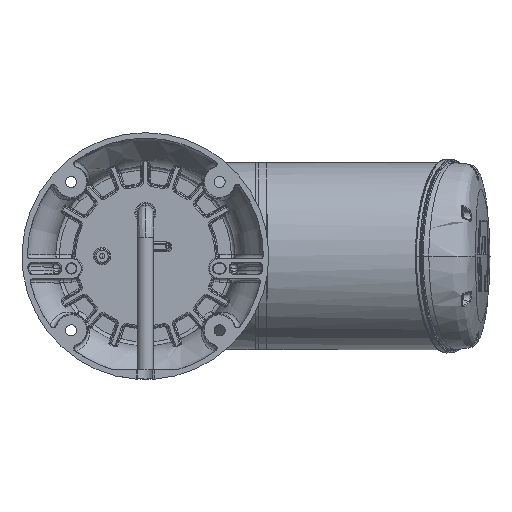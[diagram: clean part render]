
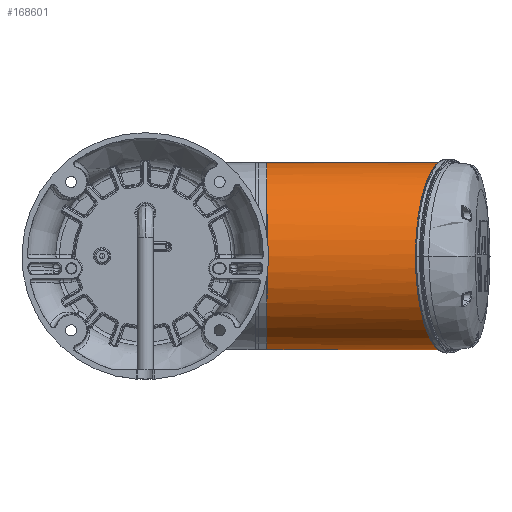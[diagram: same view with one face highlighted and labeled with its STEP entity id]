
A CAD part, front view. The second image highlights one B-rep face of the part: STEP entity #168601.
In plain terms, the highlighted cylindrical face has radius 76 mm (diameter 152 mm), a partial arc.
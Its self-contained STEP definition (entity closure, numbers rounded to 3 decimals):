
#10187 = CARTESIAN_POINT ( 'NONE',  ( 76., -1.202, -76. ) ) ;
#12317 = VERTEX_POINT ( 'NONE', #239527 ) ;
#14270 = ORIENTED_EDGE ( 'NONE', *, *, #202861, .T. ) ;
#22987 = CARTESIAN_POINT ( 'NONE',  ( -76., -1.202, -76. ) ) ;
#36625 = EDGE_LOOP ( 'NONE', ( #14270, #113511, #265377, #53951 ) ) ;
#45638 = DIRECTION ( 'NONE',  ( 0., 1., 0. ) ) ;
#46085 = DIRECTION ( 'NONE',  ( 0., 0., -1. ) ) ;
#52689 = DIRECTION ( 'NONE',  ( 0., 0., 1. ) ) ;
#53951 = ORIENTED_EDGE ( 'NONE', *, *, #251460, .T. ) ;
#56450 = CARTESIAN_POINT ( 'NONE',  ( 76., -153.202, 23.7 ) ) ;
#70385 = CYLINDRICAL_SURFACE ( 'NONE', #250080, 76. ) ;
#72718 = LINE ( 'NONE', #22987, #181467 ) ;
#79847 = DIRECTION ( 'NONE',  ( 0., 0., 1. ) ) ;
#102458 = EDGE_CURVE ( 'NONE', #155996, #250181, #193682, .T. ) ;
#104650 = VERTEX_POINT ( 'NONE', #108845 ) ;
#108845 = CARTESIAN_POINT ( 'NONE',  ( -76., -1.202, -76. ) ) ;
#109302 = DIRECTION ( 'NONE',  ( 0., 0., 1. ) ) ;
#109706 = EDGE_CURVE ( 'NONE', #104650, #155996, #188902, .T. ) ;
#113511 = ORIENTED_EDGE ( 'NONE', *, *, #109706, .T. ) ;
#121041 = CARTESIAN_POINT ( 'NONE',  ( -76., -1.202, 71.626 ) ) ;
#155996 = VERTEX_POINT ( 'NONE', #257188 ) ;
#161464 =( BOUNDED_CURVE ( )  B_SPLINE_CURVE ( 3, ( #181824, #56450, #266658, #121041 ),
 .UNSPECIFIED., .F., .F. ) 
 B_SPLINE_CURVE_WITH_KNOTS ( ( 4, 4 ),
 ( 1.571, 4.712 ),
 .UNSPECIFIED. ) 
 CURVE ( )  GEOMETRIC_REPRESENTATION_ITEM ( )  RATIONAL_B_SPLINE_CURVE ( ( 1., 0.333, 0.333, 1. ) ) 
 REPRESENTATION_ITEM ( '' )  );
#164308 = CARTESIAN_POINT ( 'NONE',  ( 76., -1.202, 71.626 ) ) ;
#168601 = ADVANCED_FACE ( 'NONE', ( #222020 ), #70385, .T. ) ;
#180468 = VECTOR ( 'NONE', #52689, 1000. ) ;
#181467 = VECTOR ( 'NONE', #46085, 1000. ) ;
#181824 = CARTESIAN_POINT ( 'NONE',  ( 76., -1.202, 71.626 ) ) ;
#188902 = CIRCLE ( 'NONE', #263559, 76. ) ;
#193682 = LINE ( 'NONE', #10187, #180468 ) ;
#202861 = EDGE_CURVE ( 'NONE', #12317, #104650, #72718, .T. ) ;
#222020 = FACE_OUTER_BOUND ( 'NONE', #36625, .T. ) ;
#239527 = CARTESIAN_POINT ( 'NONE',  ( -76., -1.202, 71.626 ) ) ;
#249428 = DIRECTION ( 'NONE',  ( 0., 1., 0. ) ) ;
#250080 = AXIS2_PLACEMENT_3D ( 'NONE', #272481, #79847, #249428 ) ;
#250181 = VERTEX_POINT ( 'NONE', #164308 ) ;
#251460 = EDGE_CURVE ( 'NONE', #250181, #12317, #161464, .T. ) ;
#254860 = CARTESIAN_POINT ( 'NONE',  ( 0., -1.202, -76. ) ) ;
#257188 = CARTESIAN_POINT ( 'NONE',  ( 76., -1.202, -76. ) ) ;
#263559 = AXIS2_PLACEMENT_3D ( 'NONE', #254860, #109302, #45638 ) ;
#265377 = ORIENTED_EDGE ( 'NONE', *, *, #102458, .T. ) ;
#266658 = CARTESIAN_POINT ( 'NONE',  ( -76., -153.202, 23.7 ) ) ;
#272481 = CARTESIAN_POINT ( 'NONE',  ( 0., -1.202, -76. ) ) ;
